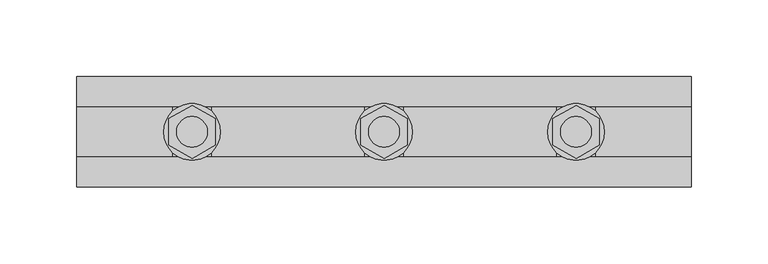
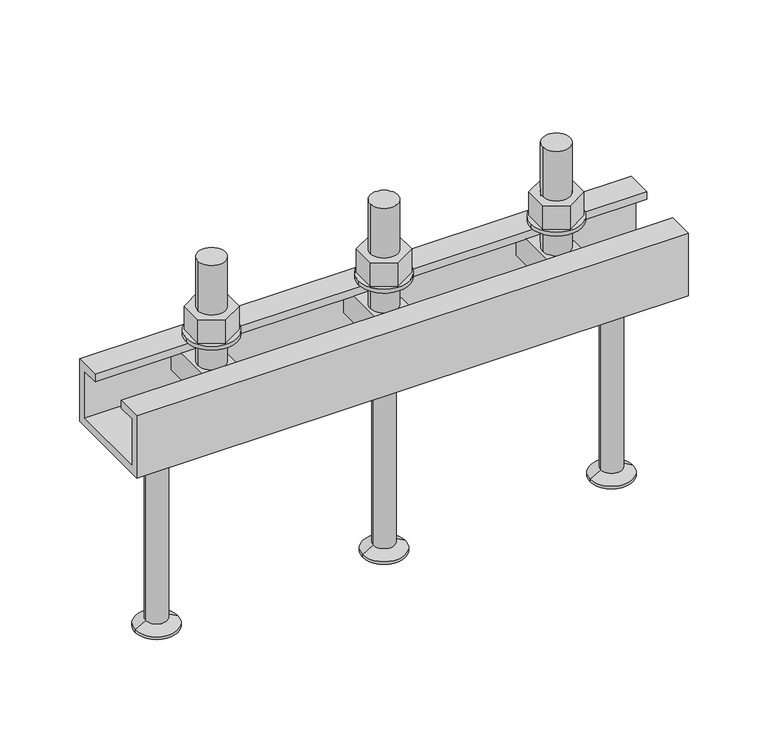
"""IFC4 building model written with IfcOpenShell, lengths in millimetres: fastener geometry, JTA-K JORDAHL® AnchorChannels : JTA-K L=400 mm."""

from ifc_helpers import new_model, si_unit, point, frame, frame_2d, origin, place, context, project, spatial, polyline, circle_curve, trimmed, segment, composite_curve, outline, extrude, source, transform, mapped, element, save
from ifc_brep_helpers import plane_surface, cylinder_surface, revolved_surface, advanced_brep


def fastener_5608e21b(model_context):
    return source(origin(), model_context, "Body", "SolidModel", [
        extrude(outline(polyline([(200.0, -17.3205081), (185.0, -8.660254), (185.0, 8.660254), (200.0, 17.3205081), (215.0, 8.660254), (215.0, -8.660254), (200.0, -17.3205081)]), holes=[composite_curve([segment(trimmed(circle_curve(frame_2d((200.0, 0.0)), 10.0), [point((190.0, 0.0))], [point((210.0, 0.0))], True, "CARTESIAN"), True, "CONTINUOUS"), segment(trimmed(circle_curve(frame_2d((200.0, 0.0)), 10.0), [point((210.0, 0.0))], [point((190.0, 0.0))], True, "CARTESIAN"), True, "CONTINUOUS")], self_intersect=False)]), frame((0.0, 0.0, 18.0), z_axis=(0.0, 0.0, 1.0), x_axis=(1.0, 0.0, 0.0)), (0.0, 0.0, 1.0), 18.0),
        extrude(outline(composite_curve([segment(trimmed(circle_curve(frame_2d((200.0, 0.0)), 18.5), [point((181.5, 0.0))], [point((218.5, 0.0))], False, "CARTESIAN"), True, "CONTINUOUS"), segment(trimmed(circle_curve(frame_2d((200.0, 0.0)), 18.5), [point((218.5, 0.0))], [point((181.5, 0.0))], False, "CARTESIAN"), True, "CONTINUOUS")], self_intersect=False), holes=[composite_curve([segment(trimmed(circle_curve(frame_2d((200.0, 0.0)), 10.5), [point((189.5, 0.0))], [point((210.5, 0.0))], True, "CARTESIAN"), True, "CONTINUOUS"), segment(trimmed(circle_curve(frame_2d((200.0, 0.0)), 10.5), [point((210.5, 0.0))], [point((189.5, 0.0))], True, "CARTESIAN"), True, "CONTINUOUS")], self_intersect=False)]), frame((0.0, 0.0, 15.0), z_axis=(0.0, 0.0, 1.0), x_axis=(1.0, 0.0, 0.0)), (0.0, 0.0, 1.0), 3.0),
        advanced_brep(
        [(212.5, -29.0, -6.0), (212.5, -29.0, -26.0), (212.5, 29.0, -26.0), (212.5, 29.0, -6.0), (187.5, -29.0, -6.0), (187.5, 29.0, -6.0), (187.5, 29.0, -26.0), (187.5, -29.0, -26.0), (210.0, 0.0, -6.0), (190.0, 0.0, -6.0), (190.0, 0.0, 74.0), (210.0, 0.0, 74.0)],
        [
            (0, 1),
            (1, 2),
            (2, 3),
            (3, 0),
            (4, 5),
            (5, 6),
            (6, 7),
            (7, 4),
            (3, 5),
            (4, 0),
            (8, 9, circle_curve(frame((200.0, 0.0, -6.0), z_axis=(0.0, 0.0, -1.0), x_axis=(1.0, 0.0, 0.0)), 10.0)),
            (9, 8, circle_curve(frame((200.0, 0.0, -6.0), z_axis=(0.0, 0.0, -1.0), x_axis=(1.0, 0.0, 0.0)), 10.0)),
            (2, 6),
            (1, 7),
            (10, 11, circle_curve(frame((200.0, 0.0, 74.0), z_axis=(0.0, 0.0, 1.0), x_axis=(1.0, 0.0, 0.0)), 10.0)),
            (11, 10, circle_curve(frame((200.0, 0.0, 74.0), z_axis=(0.0, 0.0, 1.0), x_axis=(1.0, 0.0, 0.0)), 10.0)),
            (11, 8),
            (9, 10),
        ],
        [
            plane_surface(frame((212.5, 29.0, -6.0), z_axis=(1.0, 0.0, 0.0), x_axis=(0.0, 1.0, 0.0))),
            plane_surface(frame((187.5, 29.0, -6.0), z_axis=(-1.0, 0.0, 0.0), x_axis=(0.0, -1.0, 0.0))),
            plane_surface(frame((212.5, -29.0, -6.0), z_axis=(0.0, 0.0, 1.0), x_axis=(-1.0, 0.0, 0.0))),
            plane_surface(frame((212.5, 29.0, -6.0), z_axis=(0.0, 1.0, 0.0), x_axis=(-1.0, 0.0, 0.0))),
            plane_surface(frame((212.5, 29.0, -26.0), z_axis=(0.0, 0.0, -1.0), x_axis=(-1.0, 0.0, 0.0))),
            plane_surface(frame((212.5, -29.0, -26.0), z_axis=(0.0, -1.0, 0.0), x_axis=(-1.0, 0.0, 0.0))),
            plane_surface(frame((210.0, 0.0, 74.0), z_axis=(0.0, 0.0, 1.0), x_axis=(0.0, -1.0, 0.0))),
            cylinder_surface(frame((200.0, 0.0, -6.0), z_axis=(0.0, 0.0, 1.0), x_axis=(1.0, 0.0, 0.0)), 10.0),
        ],
        [
            (0, [[1, 2, 3, 4]]),
            (1, [[5, 6, 7, 8]]),
            (2, [[9, -5, 10, -4], [11, 12]]),
            (3, [[13, -6, -9, -3]]),
            (4, [[14, -7, -13, -2]]),
            (5, [[-10, -8, -14, -1]]),
            (6, [[15, 16]]),
            (7, [[17, -12, 18, -16]]),
            (7, [[-18, -11, -17, -15]]),
        ],
    ),
        advanced_brep(
        [(200.0, 0.0, -48.0), (177.0, 0.0, -48.0), (223.0, 0.0, -48.0), (184.5, 0.0, -195.0), (200.0, 0.0, -195.0), (215.5, 0.0, -195.0), (184.5, 0.0, -193.0), (215.5, 0.0, -193.0), (192.2, 0.0, -188.5544029), (207.8, 0.0, -188.5544029), (192.2, 0.0, -52.0), (207.8, 0.0, -52.0)],
        [
            (0, 1),
            (1, 2, circle_curve(frame((200.0, 0.0, -48.0), z_axis=(0.0, 0.0, 1.0), x_axis=(1.0, 0.0, 0.0)), 23.0)),
            (2, 0),
            (2, 1, circle_curve(frame((200.0, 0.0, -48.0), z_axis=(0.0, 0.0, 1.0), x_axis=(1.0, 0.0, 0.0)), 23.0)),
            (3, 4),
            (4, 5),
            (5, 3, circle_curve(frame((200.0, 0.0, -195.0), z_axis=(0.0, 0.0, -1.0), x_axis=(1.0, 0.0, 0.0)), 15.5)),
            (3, 5, circle_curve(frame((200.0, 0.0, -195.0), z_axis=(0.0, 0.0, -1.0), x_axis=(1.0, 0.0, 0.0)), 15.5)),
            (6, 3),
            (5, 7),
            (7, 6, circle_curve(frame((200.0, 0.0, -193.0), z_axis=(0.0, 0.0, -1.0), x_axis=(1.0, 0.0, 0.0)), 15.5)),
            (6, 7, circle_curve(frame((200.0, 0.0, -193.0), z_axis=(0.0, 0.0, -1.0), x_axis=(1.0, 0.0, 0.0)), 15.5)),
            (8, 6),
            (7, 9),
            (9, 8, circle_curve(frame((200.0, 0.0, -188.5544029), z_axis=(0.0, 0.0, -1.0), x_axis=(1.0, 0.0, 0.0)), 7.8)),
            (8, 9, circle_curve(frame((200.0, 0.0, -188.5544029), z_axis=(0.0, 0.0, -1.0), x_axis=(1.0, 0.0, 0.0)), 7.8)),
            (10, 8),
            (9, 11),
            (11, 10, circle_curve(frame((200.0, 0.0, -52.0), z_axis=(0.0, 0.0, -1.0), x_axis=(1.0, 0.0, 0.0)), 7.8)),
            (10, 11, circle_curve(frame((200.0, 0.0, -52.0), z_axis=(0.0, 0.0, -1.0), x_axis=(1.0, 0.0, 0.0)), 7.8)),
            (1, 10),
            (11, 2),
        ],
        [
            plane_surface(frame((200.0, 0.0, -48.0), z_axis=(0.0, 0.0, 1.0), x_axis=(1.0, 0.0, 0.0))),
            plane_surface(frame((200.0, 0.0, -195.0), z_axis=(0.0, 0.0, -1.0), x_axis=(1.0, 0.0, 0.0))),
            cylinder_surface(frame((200.0, 0.0, 2361.3150031), z_axis=(0.0, 0.0, 1.0), x_axis=(1.0, 0.0, 0.0)), 15.5),
            revolved_surface(polyline([(215.5, 0.0, -193.0), (207.8, 0.0, -188.5544029)]), (200.0, 0.0, 2361.3150031), (0.0, 0.0, 1.0)),
            cylinder_surface(frame((200.0, 0.0, 2361.3150031), z_axis=(0.0, 0.0, 1.0), x_axis=(1.0, 0.0, 0.0)), 7.8),
            revolved_surface(polyline([(207.8, 0.0, -52.0), (223.0, 0.0, -48.0)]), (200.0, 0.0, 2361.3150031), (0.0, 0.0, 1.0)),
        ],
        [
            (0, [[1, 2, 3]]),
            (0, [[-3, 4, -1]]),
            (1, [[5, 6, 7]]),
            (1, [[-6, -5, 8]]),
            (2, [[9, -7, 10, 11]]),
            (2, [[-10, -8, -9, 12]]),
            (3, [[13, -11, 14, 15]]),
            (3, [[-14, -12, -13, 16]]),
            (4, [[17, -15, 18, 19]]),
            (4, [[-18, -16, -17, 20]]),
            (5, [[21, -19, 22, -2]]),
            (5, [[-22, -20, -21, -4]]),
        ],
    ),
        extrude(outline(polyline([(325.0, -17.3205081), (310.0, -8.660254), (310.0, 8.660254), (325.0, 17.3205081), (340.0, 8.660254), (340.0, -8.660254), (325.0, -17.3205081)]), holes=[composite_curve([segment(trimmed(circle_curve(frame_2d((325.0, 0.0)), 10.0), [point((315.0, 0.0))], [point((335.0, 0.0))], True, "CARTESIAN"), True, "CONTINUOUS"), segment(trimmed(circle_curve(frame_2d((325.0, 0.0)), 10.0), [point((335.0, 0.0))], [point((315.0, 0.0))], True, "CARTESIAN"), True, "CONTINUOUS")], self_intersect=False)]), frame((0.0, 0.0, 18.0), z_axis=(0.0, 0.0, 1.0), x_axis=(1.0, 0.0, 0.0)), (0.0, 0.0, 1.0), 18.0),
        extrude(outline(composite_curve([segment(trimmed(circle_curve(frame_2d((325.0, 0.0)), 18.5), [point((306.5, 0.0))], [point((343.5, 0.0))], False, "CARTESIAN"), True, "CONTINUOUS"), segment(trimmed(circle_curve(frame_2d((325.0, 0.0)), 18.5), [point((343.5, 0.0))], [point((306.5, 0.0))], False, "CARTESIAN"), True, "CONTINUOUS")], self_intersect=False), holes=[composite_curve([segment(trimmed(circle_curve(frame_2d((325.0, 0.0)), 10.5), [point((314.5, 0.0))], [point((335.5, 0.0))], True, "CARTESIAN"), True, "CONTINUOUS"), segment(trimmed(circle_curve(frame_2d((325.0, 0.0)), 10.5), [point((335.5, 0.0))], [point((314.5, 0.0))], True, "CARTESIAN"), True, "CONTINUOUS")], self_intersect=False)]), frame((0.0, 0.0, 15.0), z_axis=(0.0, 0.0, 1.0), x_axis=(1.0, 0.0, 0.0)), (0.0, 0.0, 1.0), 3.0),
        extrude(outline(polyline([(75.0, -17.3205081), (60.0, -8.660254), (60.0, 8.660254), (75.0, 17.3205081), (90.0, 8.660254), (90.0, -8.660254), (75.0, -17.3205081)]), holes=[composite_curve([segment(trimmed(circle_curve(frame_2d((75.0, 0.0)), 10.0), [point((65.0, 0.0))], [point((85.0, 0.0))], True, "CARTESIAN"), True, "CONTINUOUS"), segment(trimmed(circle_curve(frame_2d((75.0, 0.0)), 10.0), [point((85.0, 0.0))], [point((65.0, 0.0))], True, "CARTESIAN"), True, "CONTINUOUS")], self_intersect=False)]), frame((0.0, 0.0, 18.0), z_axis=(0.0, 0.0, 1.0), x_axis=(1.0, 0.0, 0.0)), (0.0, 0.0, 1.0), 18.0),
        extrude(outline(composite_curve([segment(trimmed(circle_curve(frame_2d((75.0, 0.0)), 18.5), [point((56.5, 0.0))], [point((93.5, 0.0))], False, "CARTESIAN"), True, "CONTINUOUS"), segment(trimmed(circle_curve(frame_2d((75.0, 0.0)), 18.5), [point((93.5, 0.0))], [point((56.5, 0.0))], False, "CARTESIAN"), True, "CONTINUOUS")], self_intersect=False), holes=[composite_curve([segment(trimmed(circle_curve(frame_2d((75.0, 0.0)), 10.5), [point((64.5, 0.0))], [point((85.5, 0.0))], True, "CARTESIAN"), True, "CONTINUOUS"), segment(trimmed(circle_curve(frame_2d((75.0, 0.0)), 10.5), [point((85.5, 0.0))], [point((64.5, 0.0))], True, "CARTESIAN"), True, "CONTINUOUS")], self_intersect=False)]), frame((0.0, 0.0, 15.0), z_axis=(0.0, 0.0, 1.0), x_axis=(1.0, 0.0, 0.0)), (0.0, 0.0, 1.0), 3.0),
        advanced_brep(
        [(337.5, -29.0, -6.0), (337.5, -29.0, -26.0), (337.5, 29.0, -26.0), (337.5, 29.0, -6.0), (312.5, -29.0, -6.0), (312.5, 29.0, -6.0), (312.5, 29.0, -26.0), (312.5, -29.0, -26.0), (335.0, 0.0, -6.0), (315.0, 0.0, -6.0), (315.0, 0.0, 74.0), (335.0, 0.0, 74.0)],
        [
            (0, 1),
            (1, 2),
            (2, 3),
            (3, 0),
            (4, 5),
            (5, 6),
            (6, 7),
            (7, 4),
            (3, 5),
            (4, 0),
            (8, 9, circle_curve(frame((325.0, 0.0, -6.0), z_axis=(0.0, 0.0, -1.0), x_axis=(1.0, 0.0, 0.0)), 10.0)),
            (9, 8, circle_curve(frame((325.0, 0.0, -6.0), z_axis=(0.0, 0.0, -1.0), x_axis=(1.0, 0.0, 0.0)), 10.0)),
            (2, 6),
            (1, 7),
            (10, 11, circle_curve(frame((325.0, 0.0, 74.0), z_axis=(0.0, 0.0, 1.0), x_axis=(1.0, 0.0, 0.0)), 10.0)),
            (11, 10, circle_curve(frame((325.0, 0.0, 74.0), z_axis=(0.0, 0.0, 1.0), x_axis=(1.0, 0.0, 0.0)), 10.0)),
            (11, 8),
            (9, 10),
        ],
        [
            plane_surface(frame((337.5, 29.0, -6.0), z_axis=(1.0, 0.0, 0.0), x_axis=(0.0, 1.0, 0.0))),
            plane_surface(frame((312.5, 29.0, -6.0), z_axis=(-1.0, 0.0, 0.0), x_axis=(0.0, -1.0, 0.0))),
            plane_surface(frame((337.5, -29.0, -6.0), z_axis=(0.0, 0.0, 1.0), x_axis=(-1.0, 0.0, 0.0))),
            plane_surface(frame((337.5, 29.0, -6.0), z_axis=(0.0, 1.0, 0.0), x_axis=(-1.0, 0.0, 0.0))),
            plane_surface(frame((337.5, 29.0, -26.0), z_axis=(0.0, 0.0, -1.0), x_axis=(-1.0, 0.0, 0.0))),
            plane_surface(frame((337.5, -29.0, -26.0), z_axis=(0.0, -1.0, 0.0), x_axis=(-1.0, 0.0, 0.0))),
            plane_surface(frame((335.0, 0.0, 74.0), z_axis=(0.0, 0.0, 1.0), x_axis=(0.0, -1.0, 0.0))),
            cylinder_surface(frame((325.0, 0.0, -6.0), z_axis=(0.0, 0.0, 1.0), x_axis=(1.0, 0.0, 0.0)), 10.0),
        ],
        [
            (0, [[1, 2, 3, 4]]),
            (1, [[5, 6, 7, 8]]),
            (2, [[9, -5, 10, -4], [11, 12]]),
            (3, [[13, -6, -9, -3]]),
            (4, [[14, -7, -13, -2]]),
            (5, [[-10, -8, -14, -1]]),
            (6, [[15, 16]]),
            (7, [[17, -12, 18, -16]]),
            (7, [[-18, -11, -17, -15]]),
        ],
    ),
        advanced_brep(
        [(87.5, -29.0, -6.0), (87.5, -29.0, -26.0), (87.5, 29.0, -26.0), (87.5, 29.0, -6.0), (62.5, -29.0, -6.0), (62.5, 29.0, -6.0), (62.5, 29.0, -26.0), (62.5, -29.0, -26.0), (85.0, 0.0, -6.0), (65.0, 0.0, -6.0), (65.0, 0.0, 74.0), (85.0, 0.0, 74.0)],
        [
            (0, 1),
            (1, 2),
            (2, 3),
            (3, 0),
            (4, 5),
            (5, 6),
            (6, 7),
            (7, 4),
            (3, 5),
            (4, 0),
            (8, 9, circle_curve(frame((75.0, 0.0, -6.0), z_axis=(0.0, 0.0, -1.0), x_axis=(1.0, 0.0, 0.0)), 10.0)),
            (9, 8, circle_curve(frame((75.0, 0.0, -6.0), z_axis=(0.0, 0.0, -1.0), x_axis=(1.0, 0.0, 0.0)), 10.0)),
            (2, 6),
            (1, 7),
            (10, 11, circle_curve(frame((75.0, 0.0, 74.0), z_axis=(0.0, 0.0, 1.0), x_axis=(1.0, 0.0, 0.0)), 10.0)),
            (11, 10, circle_curve(frame((75.0, 0.0, 74.0), z_axis=(0.0, 0.0, 1.0), x_axis=(1.0, 0.0, 0.0)), 10.0)),
            (11, 8),
            (9, 10),
        ],
        [
            plane_surface(frame((87.5, 29.0, -6.0), z_axis=(1.0, 0.0, 0.0), x_axis=(0.0, 1.0, 0.0))),
            plane_surface(frame((62.5, 29.0, -6.0), z_axis=(-1.0, 0.0, 0.0), x_axis=(0.0, -1.0, 0.0))),
            plane_surface(frame((87.5, -29.0, -6.0), z_axis=(0.0, 0.0, 1.0), x_axis=(-1.0, 0.0, 0.0))),
            plane_surface(frame((87.5, 29.0, -6.0), z_axis=(0.0, 1.0, 0.0), x_axis=(-1.0, 0.0, 0.0))),
            plane_surface(frame((87.5, 29.0, -26.0), z_axis=(0.0, 0.0, -1.0), x_axis=(-1.0, 0.0, 0.0))),
            plane_surface(frame((87.5, -29.0, -26.0), z_axis=(0.0, -1.0, 0.0), x_axis=(-1.0, 0.0, 0.0))),
            plane_surface(frame((85.0, 0.0, 74.0), z_axis=(0.0, 0.0, 1.0), x_axis=(0.0, -1.0, 0.0))),
            cylinder_surface(frame((75.0, 0.0, -6.0), z_axis=(0.0, 0.0, 1.0), x_axis=(1.0, 0.0, 0.0)), 10.0),
        ],
        [
            (0, [[1, 2, 3, 4]]),
            (1, [[5, 6, 7, 8]]),
            (2, [[9, -5, 10, -4], [11, 12]]),
            (3, [[13, -6, -9, -3]]),
            (4, [[14, -7, -13, -2]]),
            (5, [[-10, -8, -14, -1]]),
            (6, [[15, 16]]),
            (7, [[17, -12, 18, -16]]),
            (7, [[-18, -11, -17, -15]]),
        ],
    ),
        advanced_brep(
        [(365.0, 0.0, -48.0), (342.0, 0.0, -48.0), (388.0, 0.0, -48.0), (349.5, 0.0, -195.0), (365.0, 0.0, -195.0), (380.5, 0.0, -195.0), (349.5, 0.0, -193.0), (380.5, 0.0, -193.0), (357.2, 0.0, -188.5544029), (372.8, 0.0, -188.5544029), (357.2, 0.0, -52.0), (372.8, 0.0, -52.0)],
        [
            (0, 1),
            (1, 2, circle_curve(frame((365.0, 0.0, -48.0), z_axis=(0.0, 0.0, 1.0), x_axis=(1.0, 0.0, 0.0)), 23.0)),
            (2, 0),
            (2, 1, circle_curve(frame((365.0, 0.0, -48.0), z_axis=(0.0, 0.0, 1.0), x_axis=(1.0, 0.0, 0.0)), 23.0)),
            (3, 4),
            (4, 5),
            (5, 3, circle_curve(frame((365.0, 0.0, -195.0), z_axis=(0.0, 0.0, -1.0), x_axis=(1.0, 0.0, 0.0)), 15.5)),
            (3, 5, circle_curve(frame((365.0, 0.0, -195.0), z_axis=(0.0, 0.0, -1.0), x_axis=(1.0, 0.0, 0.0)), 15.5)),
            (6, 3),
            (5, 7),
            (7, 6, circle_curve(frame((365.0, 0.0, -193.0), z_axis=(0.0, 0.0, -1.0), x_axis=(1.0, 0.0, 0.0)), 15.5)),
            (6, 7, circle_curve(frame((365.0, 0.0, -193.0), z_axis=(0.0, 0.0, -1.0), x_axis=(1.0, 0.0, 0.0)), 15.5)),
            (8, 6),
            (7, 9),
            (9, 8, circle_curve(frame((365.0, 0.0, -188.5544029), z_axis=(0.0, 0.0, -1.0), x_axis=(1.0, 0.0, 0.0)), 7.8)),
            (8, 9, circle_curve(frame((365.0, 0.0, -188.5544029), z_axis=(0.0, 0.0, -1.0), x_axis=(1.0, 0.0, 0.0)), 7.8)),
            (10, 8),
            (9, 11),
            (11, 10, circle_curve(frame((365.0, 0.0, -52.0), z_axis=(0.0, 0.0, -1.0), x_axis=(1.0, 0.0, 0.0)), 7.8)),
            (10, 11, circle_curve(frame((365.0, 0.0, -52.0), z_axis=(0.0, 0.0, -1.0), x_axis=(1.0, 0.0, 0.0)), 7.8)),
            (1, 10),
            (11, 2),
        ],
        [
            plane_surface(frame((365.0, 0.0, -48.0), z_axis=(0.0, 0.0, 1.0), x_axis=(1.0, 0.0, 0.0))),
            plane_surface(frame((365.0, 0.0, -195.0), z_axis=(0.0, 0.0, -1.0), x_axis=(1.0, 0.0, 0.0))),
            cylinder_surface(frame((365.0, 0.0, 2361.3150031), z_axis=(0.0, 0.0, 1.0), x_axis=(1.0, 0.0, 0.0)), 15.5),
            revolved_surface(polyline([(380.5, 0.0, -193.0), (372.8, 0.0, -188.5544029)]), (365.0, 0.0, 2361.3150031), (0.0, 0.0, 1.0)),
            cylinder_surface(frame((365.0, 0.0, 2361.3150031), z_axis=(0.0, 0.0, 1.0), x_axis=(1.0, 0.0, 0.0)), 7.8),
            revolved_surface(polyline([(372.8, 0.0, -52.0), (388.0, 0.0, -48.0)]), (365.0, 0.0, 2361.3150031), (0.0, 0.0, 1.0)),
        ],
        [
            (0, [[1, 2, 3]]),
            (0, [[-3, 4, -1]]),
            (1, [[5, 6, 7]]),
            (1, [[-6, -5, 8]]),
            (2, [[9, -7, 10, 11]]),
            (2, [[-10, -8, -9, 12]]),
            (3, [[13, -11, 14, 15]]),
            (3, [[-14, -12, -13, 16]]),
            (4, [[17, -15, 18, 19]]),
            (4, [[-18, -16, -17, 20]]),
            (5, [[21, -19, 22, -2]]),
            (5, [[-22, -20, -21, -4]]),
        ],
    ),
        advanced_brep(
        [(35.0, 0.0, -48.0), (12.0, 0.0, -48.0), (58.0, 0.0, -48.0), (19.5, 0.0, -195.0), (35.0, 0.0, -195.0), (50.5, 0.0, -195.0), (19.5, 0.0, -193.0), (50.5, 0.0, -193.0), (27.2, 0.0, -188.5544029), (42.8, 0.0, -188.5544029), (27.2, 0.0, -52.0), (42.8, 0.0, -52.0)],
        [
            (0, 1),
            (1, 2, circle_curve(frame((35.0, 0.0, -48.0), z_axis=(0.0, 0.0, 1.0), x_axis=(1.0, 0.0, 0.0)), 23.0)),
            (2, 0),
            (2, 1, circle_curve(frame((35.0, 0.0, -48.0), z_axis=(0.0, 0.0, 1.0), x_axis=(1.0, 0.0, 0.0)), 23.0)),
            (3, 4),
            (4, 5),
            (5, 3, circle_curve(frame((35.0, 0.0, -195.0), z_axis=(0.0, 0.0, -1.0), x_axis=(1.0, 0.0, 0.0)), 15.5)),
            (3, 5, circle_curve(frame((35.0, 0.0, -195.0), z_axis=(0.0, 0.0, -1.0), x_axis=(1.0, 0.0, 0.0)), 15.5)),
            (6, 3),
            (5, 7),
            (7, 6, circle_curve(frame((35.0, 0.0, -193.0), z_axis=(0.0, 0.0, -1.0), x_axis=(1.0, 0.0, 0.0)), 15.5)),
            (6, 7, circle_curve(frame((35.0, 0.0, -193.0), z_axis=(0.0, 0.0, -1.0), x_axis=(1.0, 0.0, 0.0)), 15.5)),
            (8, 6),
            (7, 9),
            (9, 8, circle_curve(frame((35.0, 0.0, -188.5544029), z_axis=(0.0, 0.0, -1.0), x_axis=(1.0, 0.0, 0.0)), 7.8)),
            (8, 9, circle_curve(frame((35.0, 0.0, -188.5544029), z_axis=(0.0, 0.0, -1.0), x_axis=(1.0, 0.0, 0.0)), 7.8)),
            (10, 8),
            (9, 11),
            (11, 10, circle_curve(frame((35.0, 0.0, -52.0), z_axis=(0.0, 0.0, -1.0), x_axis=(1.0, 0.0, 0.0)), 7.8)),
            (10, 11, circle_curve(frame((35.0, 0.0, -52.0), z_axis=(0.0, 0.0, -1.0), x_axis=(1.0, 0.0, 0.0)), 7.8)),
            (1, 10),
            (11, 2),
        ],
        [
            plane_surface(frame((35.0, 0.0, -48.0), z_axis=(0.0, 0.0, 1.0), x_axis=(1.0, 0.0, 0.0))),
            plane_surface(frame((35.0, 0.0, -195.0), z_axis=(0.0, 0.0, -1.0), x_axis=(1.0, 0.0, 0.0))),
            cylinder_surface(frame((35.0, 0.0, 2361.3150031), z_axis=(0.0, 0.0, 1.0), x_axis=(1.0, 0.0, 0.0)), 15.5),
            revolved_surface(polyline([(50.5, 0.0, -193.0), (42.8, 0.0, -188.5544029)]), (35.0, 0.0, 2361.3150031), (0.0, 0.0, 1.0)),
            cylinder_surface(frame((35.0, 0.0, 2361.3150031), z_axis=(0.0, 0.0, 1.0), x_axis=(1.0, 0.0, 0.0)), 7.8),
            revolved_surface(polyline([(42.8, 0.0, -52.0), (58.0, 0.0, -48.0)]), (35.0, 0.0, 2361.3150031), (0.0, 0.0, 1.0)),
        ],
        [
            (0, [[1, 2, 3]]),
            (0, [[-3, 4, -1]]),
            (1, [[5, 6, 7]]),
            (1, [[-6, -5, 8]]),
            (2, [[9, -7, 10, 11]]),
            (2, [[-10, -8, -9, 12]]),
            (3, [[13, -11, 14, 15]]),
            (3, [[-14, -12, -13, 16]]),
            (4, [[17, -15, 18, 19]]),
            (4, [[-18, -16, -17, 20]]),
            (5, [[21, -19, 22, -2]]),
            (5, [[-22, -20, -21, -4]]),
        ],
    ),
        extrude(outline(polyline([(-36.0, 0.0), (-16.5, 0.0), (-16.5, -6.0), (-30.0, -6.0), (-30.0, -42.0), (30.0, -42.0), (30.0, -6.0), (16.5, -6.0), (16.5, 0.0), (36.0, 0.0), (36.0, -48.0), (-36.0, -48.0), (-36.0, 0.0)])), frame((0.0, 0.0, 0.0), z_axis=(1.0, 0.0, 0.0), x_axis=(0.0, 1.0, 0.0)), (0.0, 0.0, 1.0), 400.0),
    ])


if __name__ == "__main__":
    model = new_model("IFC4")
    model_context = context("Model", 3, world=origin())
    ifc_project = project(units=[si_unit("LENGTHUNIT", "METRE", prefix="MILLI")], contexts=[model_context])
    site = spatial("IfcSite", under=ifc_project)
    building = spatial("IfcBuilding", under=site)
    placement = place(None, origin())
    fastener_shape = fastener_5608e21b(model_context)
    element("IfcFastener", 1, ObjectType="JTA-K JORDAHL® AnchorChannels : JTA-K L=400 mm", at=placement, inside=building, context=model_context, shape_type="MappedRepresentation", body=[
        mapped(fastener_shape, transform((0.0, 0.0, 0.0), x_axis=(1.0, 0.0, 0.0), y_axis=(0.0, 1.0, 0.0), z_axis=(0.0, 0.0, 1.0))),
    ])
    save(model, "model.ifc")
